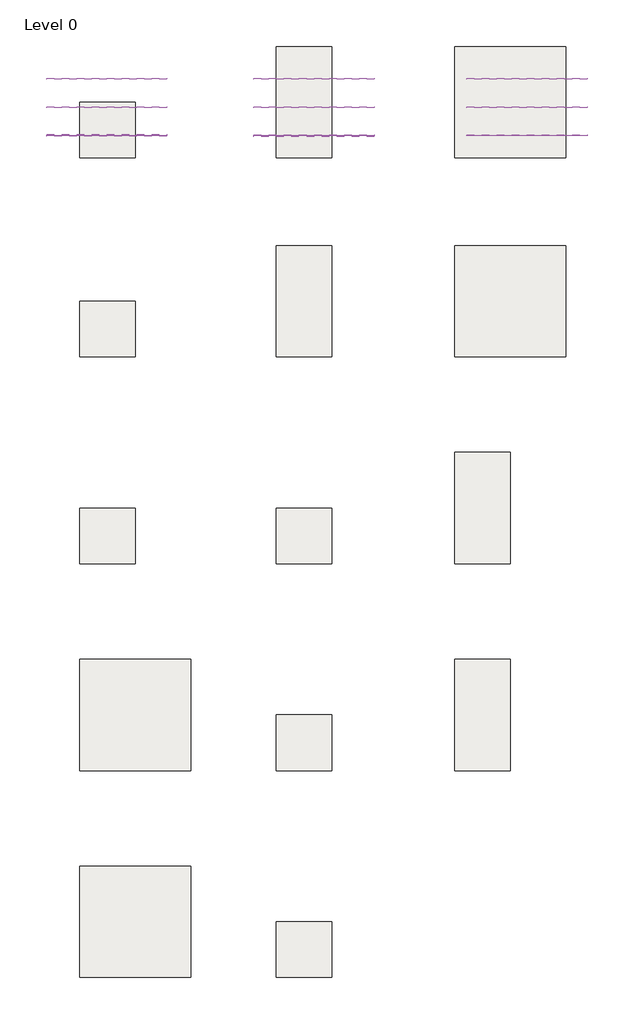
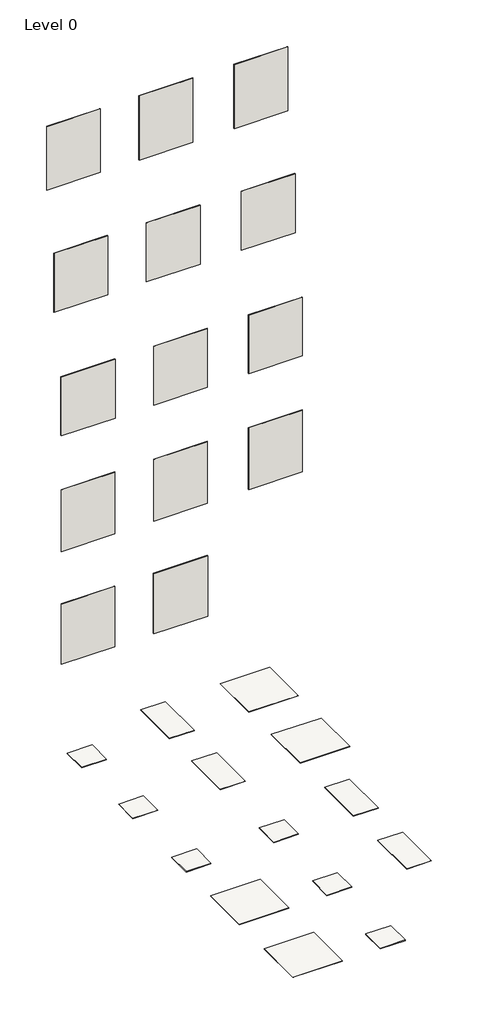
# One storey: 14 slabs, 14 walls.
"""IFC4 building model written with IfcOpenShell, lengths in millimetres."""

from ifc_helpers import new_model, si_unit, frame, origin, place, context, project, spatial, polyline, outline, extrude, element, save

model = new_model("IFC4")

# Units and contexts
model_context = context("Model", 3, world=origin())
ifc_project = project(units=[si_unit("LENGTHUNIT", "METRE", prefix="MILLI")], contexts=[model_context])

# Site, building, storey
site = spatial("IfcSite", under=ifc_project)
building = spatial("IfcBuilding", under=site)
storey = spatial("IfcBuildingStorey", under=building, Name="Level 0", Elevation=0.0)

# Slabs
placement = place(None, origin())
element("IfcSlab", 1, ObjectType="Floor_Tiles_Refin-Orobica-Antracite-120x120 OQ53", at=placement, inside=storey, context=model_context, shape_type="SweptSolid", body=[
    extrude(outline(polyline([(11527.1861419, 8489.4623743), (11527.1861419, 7289.4623743), (10327.1861419, 7289.4623743), (10327.1861419, 8489.4623743), (11527.1861419, 8489.4623743)])), frame((0.0, 0.0, -10.0), z_axis=(0.0, 0.0, 1.0), x_axis=(1.0, 0.0, 0.0)), (0.0, 0.0, 1.0), 10.0),
])
element("IfcSlab", 2, ObjectType="Floor_Tiles_Refin-Orobica-Antracite-60x60 OQ61", at=placement, inside=storey, context=model_context, shape_type="SweptSolid", body=[
    extrude(outline(polyline([(6874.3752062, 7889.4623743), (6874.3752062, 7289.4623743), (6274.3752062, 7289.4623743), (6274.3752062, 7889.4623743), (6874.3752062, 7889.4623743)])), frame((0.0, 0.0, -10.0), z_axis=(0.0, 0.0, 1.0), x_axis=(1.0, 0.0, 0.0)), (0.0, 0.0, 1.0), 10.0),
])
element("IfcSlab", 3, ObjectType="Floor_Tiles_Refin-Orobica-Beige-120x120 OQ54", at=placement, inside=storey, context=model_context, shape_type="SweptSolid", body=[
    extrude(outline(polyline([(11527.1861419, 6339.4623743), (11527.1861419, 5139.4623743), (10327.1861419, 5139.4623743), (10327.1861419, 6339.4623743), (11527.1861419, 6339.4623743)])), frame((0.0, 0.0, -10.0), z_axis=(0.0, 0.0, 1.0), x_axis=(1.0, 0.0, 0.0)), (0.0, 0.0, 1.0), 10.0),
])
element("IfcSlab", 4, ObjectType="Floor_Tiles_Refin-Orobica-Beige-60x120 OQ58", at=placement, inside=storey, context=model_context, shape_type="SweptSolid", body=[
    extrude(outline(polyline([(8997.3924055, 6339.4623743), (8997.3924055, 5139.4623743), (8397.3924055, 5139.4623743), (8397.3924055, 6339.4623743), (8997.3924055, 6339.4623743)])), frame((0.0, 0.0, -10.0), z_axis=(0.0, 0.0, 1.0), x_axis=(1.0, 0.0, 0.0)), (0.0, 0.0, 1.0), 10.0),
])
element("IfcSlab", 5, ObjectType="Floor_Tiles_Refin-Orobica-Antracite-60x120 OQ57", at=placement, inside=storey, context=model_context, shape_type="SweptSolid", body=[
    extrude(outline(polyline([(8997.3924055, 8488.4192064), (8997.3924055, 7288.4192064), (8397.3924055, 7288.4192064), (8397.3924055, 8488.4192064), (8997.3924055, 8488.4192064)])), frame((0.0, 0.0, -10.0), z_axis=(0.0, 0.0, 1.0), x_axis=(1.0, 0.0, 0.0)), (0.0, 0.0, 1.0), 10.0),
])
element("IfcSlab", 6, ObjectType="Floor_Tiles_Refin-Orobica-Bianca-60x120 OQ59", at=placement, inside=storey, context=model_context, shape_type="SweptSolid", body=[
    extrude(outline(polyline([(10925.4118688, 4103.4367235), (10925.4118688, 2903.4367235), (10325.4118688, 2903.4367235), (10325.4118688, 4103.4367235), (10925.4118688, 4103.4367235)])), frame((0.0, 0.0, -10.0), z_axis=(0.0, 0.0, 1.0), x_axis=(1.0, 0.0, 0.0)), (0.0, 0.0, 1.0), 10.0),
])
element("IfcSlab", 7, ObjectType="Floor_Tiles_Refin-Orobica-Beige-60x60 OQ62", at=placement, inside=storey, context=model_context, shape_type="SweptSolid", body=[
    extrude(outline(polyline([(6874.3752062, 5739.4623743), (6874.3752062, 5139.4623743), (6274.3752062, 5139.4623743), (6274.3752062, 5739.4623743), (6874.3752062, 5739.4623743)])), frame((0.0, 0.0, -10.0), z_axis=(0.0, 0.0, 1.0), x_axis=(1.0, 0.0, 0.0)), (0.0, 0.0, 1.0), 10.0),
])
element("IfcSlab", 8, ObjectType="Floor_Tiles_Refin-Orobica-Beige-OUT2.0-60x60 OQ65", at=placement, inside=storey, context=model_context, shape_type="SweptSolid", body=[
    extrude(outline(polyline([(6874.3752062, 3503.4367235), (6874.3752062, 2903.4367235), (6274.3752062, 2903.4367235), (6274.3752062, 3503.4367235), (6874.3752062, 3503.4367235)])), frame((0.0, 0.0, -21.0), z_axis=(0.0, 0.0, 1.0), x_axis=(1.0, 0.0, 0.0)), (0.0, 0.0, 1.0), 21.0),
])
element("IfcSlab", 9, ObjectType="Floor_Tiles_Refin-Orobica-Bianca-60x60 OQ63", at=placement, inside=storey, context=model_context, shape_type="SweptSolid", body=[
    extrude(outline(polyline([(8997.3924055, 3503.4367235), (8997.3924055, 2903.4367235), (8397.3924055, 2903.4367235), (8397.3924055, 3503.4367235), (8997.3924055, 3503.4367235)])), frame((0.0, 0.0, -10.0), z_axis=(0.0, 0.0, 1.0), x_axis=(1.0, 0.0, 0.0)), (0.0, 0.0, 1.0), 10.0),
])
element("IfcSlab", 10, ObjectType="Floor_Tiles_Refin-Orobica-Grigia-60x120 OQ60", at=placement, inside=storey, context=model_context, shape_type="SweptSolid", body=[
    extrude(outline(polyline([(10925.4118688, 1867.4110727), (10925.4118688, 667.4110727), (10325.4118688, 667.4110727), (10325.4118688, 1867.4110727), (10925.4118688, 1867.4110727)])), frame((0.0, 0.0, -10.0), z_axis=(0.0, 0.0, 1.0), x_axis=(1.0, 0.0, 0.0)), (0.0, 0.0, 1.0), 10.0),
])
element("IfcSlab", 11, ObjectType="Floor_Tiles_Refin-Orobica-Bianca-120x120 OQ55", at=placement, inside=storey, context=model_context, shape_type="SweptSolid", body=[
    extrude(outline(polyline([(7474.3752062, 1867.4110727), (7474.3752062, 667.4110727), (6274.3752062, 667.4110727), (6274.3752062, 1867.4110727), (7474.3752062, 1867.4110727)])), frame((0.0, 0.0, -10.0), z_axis=(0.0, 0.0, 1.0), x_axis=(1.0, 0.0, 0.0)), (0.0, 0.0, 1.0), 10.0),
])
element("IfcSlab", 12, ObjectType="Floor_Tiles_Refin-Orobica-Grigia-60x60 OQ64", at=placement, inside=storey, context=model_context, shape_type="SweptSolid", body=[
    extrude(outline(polyline([(8997.3924055, 1267.4110727), (8997.3924055, 667.4110727), (8397.3924055, 667.4110727), (8397.3924055, 1267.4110727), (8997.3924055, 1267.4110727)])), frame((0.0, 0.0, -10.0), z_axis=(0.0, 0.0, 1.0), x_axis=(1.0, 0.0, 0.0)), (0.0, 0.0, 1.0), 10.0),
])
element("IfcSlab", 13, ObjectType="Floor_Tiles_Refin-Orobica-Grigia-120x120 OQ56", at=placement, inside=storey, context=model_context, shape_type="SweptSolid", body=[
    extrude(outline(polyline([(7474.3752062, -368.6145781), (7474.3752062, -1568.6145781), (6274.3752062, -1568.6145781), (6274.3752062, -368.6145781), (7474.3752062, -368.6145781)])), frame((0.0, 0.0, -10.0), z_axis=(0.0, 0.0, 1.0), x_axis=(1.0, 0.0, 0.0)), (0.0, 0.0, 1.0), 10.0),
])
element("IfcSlab", 14, ObjectType="Floor_Tiles_Refin-Orobica-Grigia-OUT2.0-60x60 OQ66", at=placement, inside=storey, context=model_context, shape_type="SweptSolid", body=[
    extrude(outline(polyline([(8997.3924055, -968.6145781), (8997.3924055, -1568.6145781), (8397.3924055, -1568.6145781), (8397.3924055, -968.6145781), (8997.3924055, -968.6145781)])), frame((0.0, 0.0, -21.0), z_axis=(0.0, 0.0, 1.0), x_axis=(1.0, 0.0, 0.0)), (0.0, 0.0, 1.0), 21.0),
])

# Walls
element("IfcWall", 15, ObjectType="Wall_Tiles_Refin-Orobica-Antracite-60x120 OQ57", at=placement, inside=storey, context=model_context, shape_type="SweptSolid", body=[
    extrude(outline(polyline([(9457.3752062, 8132.3838631), (8157.3752062, 8132.3838631), (8157.3752062, 8142.3838631), (9457.3752062, 8142.3838631), (9457.3752062, 8132.3838631)])), frame((0.0, 0.0, 14387.6770443), z_axis=(0.0, 0.0, 1.0), x_axis=(1.0, 0.0, 0.0)), (0.0, 0.0, 1.0), 1641.7417352),
])
element("IfcWall", 16, ObjectType="Wall_Tiles_Refin-Orobica-Antracite-120x120 OQ53", at=placement, inside=storey, context=model_context, shape_type="SweptSolid", body=[
    extrude(outline(polyline([(11757.3752062, 8132.3838631), (10457.3752062, 8132.3838631), (10457.3752062, 8142.3838631), (11757.3752062, 8142.3838631), (11757.3752062, 8132.3838631)])), frame((0.0, 0.0, 14387.6770443), z_axis=(0.0, 0.0, 1.0), x_axis=(1.0, 0.0, 0.0)), (0.0, 0.0, 1.0), 1641.7417352),
])
element("IfcWall", 17, ObjectType="Wall_Tiles_Refin-Orobica-Antracite-60x60 OQ61", at=placement, inside=storey, context=model_context, shape_type="SweptSolid", body=[
    extrude(outline(polyline([(7217.3752062, 8132.3838631), (5917.3752062, 8132.3838631), (5917.3752062, 8142.3838631), (7217.3752062, 8142.3838631), (7217.3752062, 8132.3838631)])), frame((0.0, 0.0, 14403.7267346), z_axis=(0.0, 0.0, 1.0), x_axis=(1.0, 0.0, 0.0)), (0.0, 0.0, 1.0), 1625.692045),
])
element("IfcWall", 18, ObjectType="Wall_Tiles_Refin-Orobica-Beige-60x60 OQ62", at=placement, inside=storey, context=model_context, shape_type="SweptSolid", body=[
    extrude(outline(polyline([(7217.3752062, 7827.3838631), (5917.3752062, 7827.3838631), (5917.3752062, 7837.3838631), (7217.3752062, 7837.3838631), (7217.3752062, 7827.3838631)])), frame((0.0, 0.0, 11452.5436262), z_axis=(0.0, 0.0, 1.0), x_axis=(1.0, 0.0, 0.0)), (0.0, 0.0, 1.0), 1513.1985566),
])
element("IfcWall", 19, ObjectType="Wall_Tiles_Refin-Orobica-Beige-60x120 OQ58", at=placement, inside=storey, context=model_context, shape_type="SweptSolid", body=[
    extrude(outline(polyline([(9457.3752062, 7827.3838631), (8157.3752062, 7827.3838631), (8157.3752062, 7837.3838631), (9457.3752062, 7837.3838631), (9457.3752062, 7827.3838631)])), frame((0.0, 0.0, 11452.5436262), z_axis=(0.0, 0.0, 1.0), x_axis=(1.0, 0.0, 0.0)), (0.0, 0.0, 1.0), 1513.1985566),
])
element("IfcWall", 20, ObjectType="Wall_Tiles_Refin-Orobica-Beige-120x120 OQ54", at=placement, inside=storey, context=model_context, shape_type="SweptSolid", body=[
    extrude(outline(polyline([(11757.3752062, 7827.3838631), (10457.3752062, 7827.3838631), (10457.3752062, 7837.3838631), (11757.3752062, 7837.3838631), (11757.3752062, 7827.3838631)])), frame((0.0, 0.0, 11452.5436262), z_axis=(0.0, 0.0, 1.0), x_axis=(1.0, 0.0, 0.0)), (0.0, 0.0, 1.0), 1513.1985566),
])
element("IfcWall", 21, ObjectType="Wall_Tiles_Refin-Orobica-Beige-OUT2.0-60x60 OQ65", at=placement, inside=storey, context=model_context, shape_type="SweptSolid", body=[
    extrude(outline(polyline([(7217.3752062, 7516.8838631), (5917.3752062, 7516.8838631), (5917.3752062, 7537.8838631), (7217.3752062, 7537.8838631), (7217.3752062, 7516.8838631)])), frame((0.0, 0.0, 8479.1027214), z_axis=(0.0, 0.0, 1.0), x_axis=(1.0, 0.0, 0.0)), (0.0, 0.0, 1.0), 1502.5740159),
])
element("IfcWall", 22, ObjectType="Wall_Tiles_Refin-Orobica-Bianca-60x60 OQ63", at=placement, inside=storey, context=model_context, shape_type="SweptSolid", body=[
    extrude(outline(polyline([(9457.3752062, 7522.3838631), (8157.3752062, 7522.3838631), (8157.3752062, 7532.3838631), (9457.3752062, 7532.3838631), (9457.3752062, 7522.3838631)])), frame((0.0, 0.0, 8479.1027214), z_axis=(0.0, 0.0, 1.0), x_axis=(1.0, 0.0, 0.0)), (0.0, 0.0, 1.0), 1502.5740159),
])
element("IfcWall", 23, ObjectType="Wall_Tiles_Refin-Orobica-Bianca-60x120 OQ59", at=placement, inside=storey, context=model_context, shape_type="SweptSolid", body=[
    extrude(outline(polyline([(11757.3752062, 7522.3838631), (10457.3752062, 7522.3838631), (10457.3752062, 7532.3838631), (11757.3752062, 7532.3838631), (11757.3752062, 7522.3838631)])), frame((0.0, 0.0, 8479.1027214), z_axis=(0.0, 0.0, 1.0), x_axis=(1.0, 0.0, 0.0)), (0.0, 0.0, 1.0), 1502.5740159),
])
element("IfcWall", 24, ObjectType="Wall_Tiles_Refin-Orobica-Bianca-120x120 OQ55", at=placement, inside=storey, context=model_context, shape_type="SweptSolid", body=[
    extrude(outline(polyline([(7217.3752062, 7522.3838631), (5917.3752062, 7522.3838631), (5917.3752062, 7532.3838631), (7217.3752062, 7532.3838631), (7217.3752062, 7522.3838631)])), frame((0.0, 0.0, 5508.2613359), z_axis=(0.0, 0.0, 1.0), x_axis=(1.0, 0.0, 0.0)), (0.0, 0.0, 1.0), 1583.074086),
])
element("IfcWall", 25, ObjectType="Wall_Tiles_Refin-Orobica-Grigia-60x60 OQ64", at=placement, inside=storey, context=model_context, shape_type="SweptSolid", body=[
    extrude(outline(polyline([(9457.3752062, 7522.3838631), (8157.3752062, 7522.3838631), (8157.3752062, 7532.3838631), (9457.3752062, 7532.3838631), (9457.3752062, 7522.3838631)])), frame((0.0, 0.0, 5508.2613359), z_axis=(0.0, 0.0, 1.0), x_axis=(1.0, 0.0, 0.0)), (0.0, 0.0, 1.0), 1583.074086),
])
element("IfcWall", 26, ObjectType="Wall_Tiles_Refin-Orobica-Grigia-60x120 OQ60", at=placement, inside=storey, context=model_context, shape_type="SweptSolid", body=[
    extrude(outline(polyline([(11757.3752062, 7522.3838631), (10457.3752062, 7522.3838631), (10457.3752062, 7532.3838631), (11757.3752062, 7532.3838631), (11757.3752062, 7522.3838631)])), frame((0.0, 0.0, 5508.2613359), z_axis=(0.0, 0.0, 1.0), x_axis=(1.0, 0.0, 0.0)), (0.0, 0.0, 1.0), 1583.074086),
])
element("IfcWall", 27, ObjectType="Wall_Tiles_Refin-Orobica-Grigia-120x120 OQ56", at=placement, inside=storey, context=model_context, shape_type="SweptSolid", body=[
    extrude(outline(polyline([(7217.3752062, 7522.3838631), (5917.3752062, 7522.3838631), (5917.3752062, 7532.3838631), (7217.3752062, 7532.3838631), (7217.3752062, 7522.3838631)])), frame((0.0, 0.0, 2622.0649803), z_axis=(0.0, 0.0, 1.0), x_axis=(1.0, 0.0, 0.0)), (0.0, 0.0, 1.0), 1547.115069),
])
element("IfcWall", 28, ObjectType="Wall_Tiles_Refin-Orobica-Grigia-OUT2.0-60x60 OQ66", at=placement, inside=storey, context=model_context, shape_type="SweptSolid", body=[
    extrude(outline(polyline([(9457.3752062, 7516.8838631), (8157.3752062, 7516.8838631), (8157.3752062, 7537.8838631), (9457.3752062, 7537.8838631), (9457.3752062, 7516.8838631)])), frame((0.0, 0.0, 2622.0649803), z_axis=(0.0, 0.0, 1.0), x_axis=(1.0, 0.0, 0.0)), (0.0, 0.0, 1.0), 1547.115069),
])

save(model, "model.ifc")
